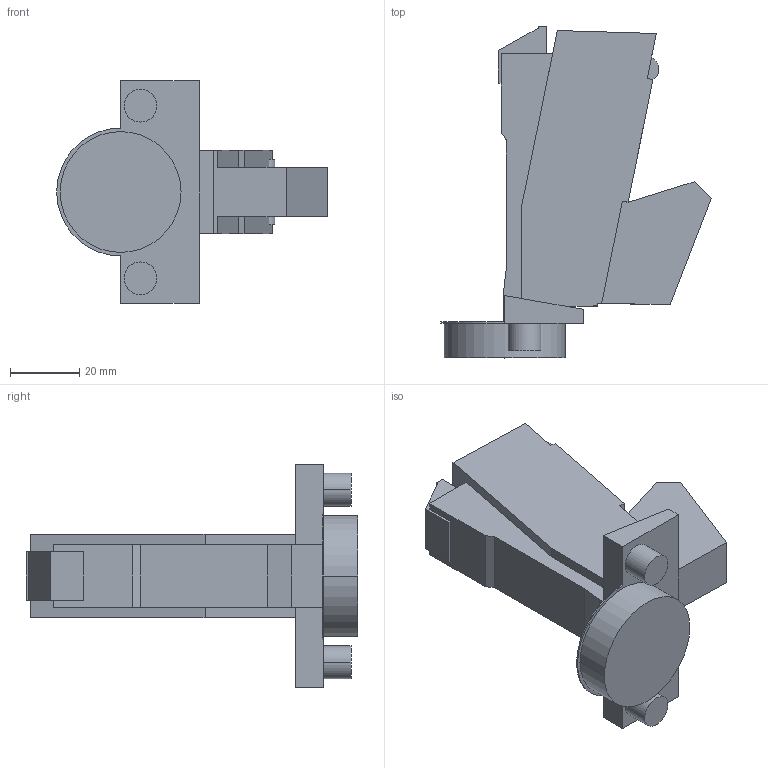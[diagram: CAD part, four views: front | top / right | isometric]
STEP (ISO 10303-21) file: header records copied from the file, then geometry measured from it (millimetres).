
FILE_DESCRIPTION (( 'STEP AP214' ), '1' );
FILE_NAME ('Scharnier T Impresso 160° HS_BB, K03.step', '2010-12-13T10:13:14', ( 'grass' ), ( '' ), 'SwSTEP 2.0', 'SolidWorks 2010', '' );
FILE_SCHEMA (( 'AUTOMOTIVE_DESIGN' ));
Length unit declared in the file: millimetre
Products named in the file (1): Scharnier T Impresso 160° HS_BB, K03
Bounding box: 78.34 x 96.09 x 64.5 mm (x, y, z)
Volume: 96079.2 mm3; surface area: 19622.6 mm2
Topology: 1 solids, 3 shells, 68 faces, 173 edges, 114 vertices
Faces by surface type: plane 55, cylinder 13
Entity records: 2061 total; most frequent: CARTESIAN_POINT 356, ORIENTED_EDGE 346, DIRECTION 337, EDGE_CURVE 173, LINE 147, VECTOR 147, VERTEX_POINT 114, AXIS2_PLACEMENT_3D 95
